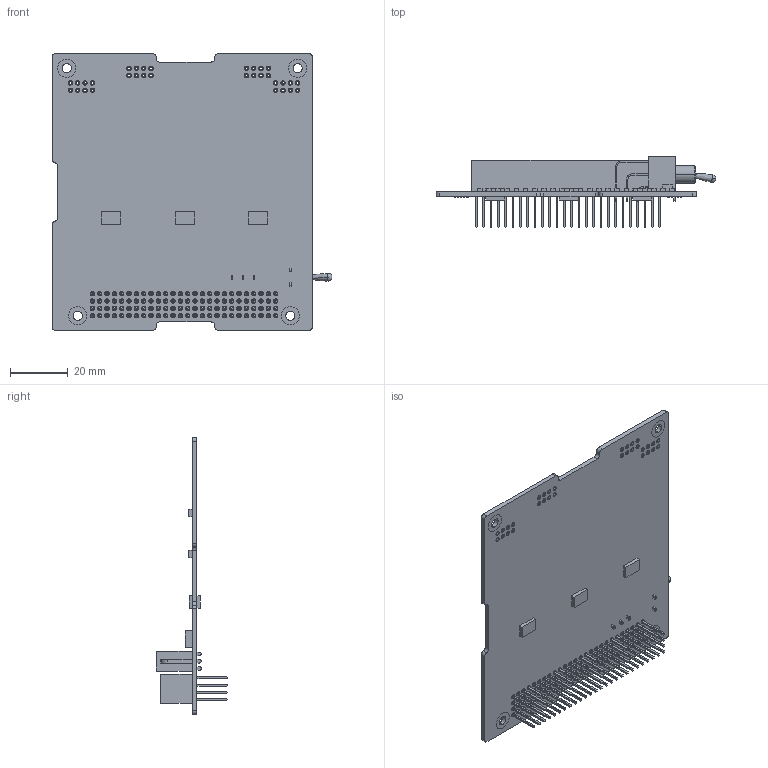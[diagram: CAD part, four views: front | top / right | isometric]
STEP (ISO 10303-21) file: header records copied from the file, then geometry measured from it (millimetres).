
FILE_DESCRIPTION (( 'STEP AP214' ), '1' );
FILE_NAME ('711-00521 IO LED Module (Test Board A) Rev A.STEP', '2017-01-19T18:19:51', ( '' ), ( '' ), 'SwSTEP 2.0', 'SolidWorks 2014', '' );
FILE_SCHEMA (( 'AUTOMOTIVE_DESIGN' ));
Length unit declared in the file: inch
Products named in the file (2): 711-00521 IO LED Module (Test Board A) Rev A
Bounding box: 96.96 x 24.64 x 95.89 mm (x, y, z)
Volume: 22388.3 mm3; surface area: 26123.5 mm2
Topology: 1 solids, 1 shells, 3249 faces, 7419 edges, 4668 vertices
Faces by surface type: plane 2526, cylinder 716, cone 3, bspline 2, sphere 2
Entity records: 96098 total; most frequent: CARTESIAN_POINT 15610, DIRECTION 15342, ORIENTED_EDGE 14834, EDGE_CURVE 7417, VECTOR 5970, LINE 5970, AXIS2_PLACEMENT_3D 4686, VERTEX_POINT 4667
